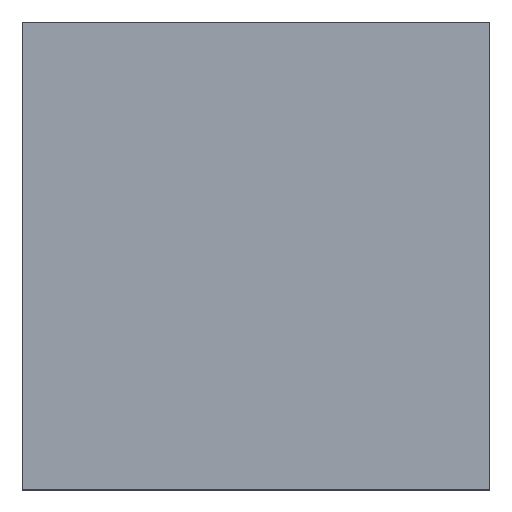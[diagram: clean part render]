
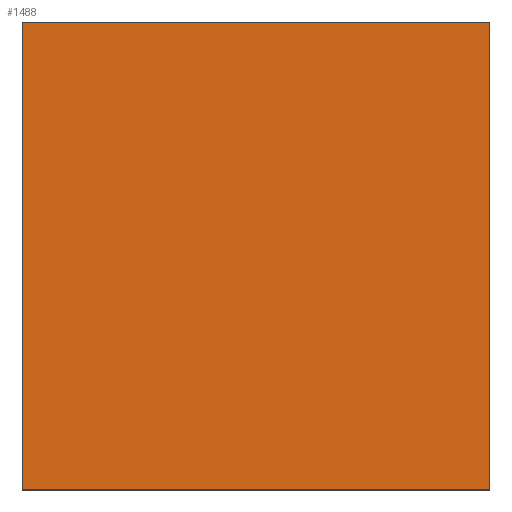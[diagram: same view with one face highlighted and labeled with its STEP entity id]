
A CAD part, top view. The second image highlights one B-rep face of the part: STEP entity #1488.
In plain terms, the highlighted planar face has unit normal (0, 0, 1).
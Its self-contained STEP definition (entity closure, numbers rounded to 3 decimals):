
#350 = VERTEX_POINT ( 'NONE', #9082 ) ;
#685 = ORIENTED_EDGE ( 'NONE', *, *, #975, .T. ) ;
#936 = LINE ( 'NONE', #3099, #4115 ) ;
#975 = EDGE_CURVE ( 'NONE', #3629, #5771, #3676, .T. ) ;
#1204 = EDGE_CURVE ( 'NONE', #350, #3629, #8372, .T. ) ;
#1317 = CARTESIAN_POINT ( 'NONE',  ( -10., -10., 1. ) ) ;
#1414 = CARTESIAN_POINT ( 'NONE',  ( -10., 10., 1. ) ) ;
#1488 = ADVANCED_FACE ( 'NONE', ( #5165 ), #8002, .T. ) ;
#1531 = VECTOR ( 'NONE', #2887, 1000. ) ;
#1620 = CARTESIAN_POINT ( 'NONE',  ( -10., 10., 1. ) ) ;
#1954 = CARTESIAN_POINT ( 'NONE',  ( 10., 10., 1. ) ) ;
#2170 = ORIENTED_EDGE ( 'NONE', *, *, #1204, .T. ) ;
#2887 = DIRECTION ( 'NONE',  ( -1., 0., 0. ) ) ;
#2889 = EDGE_CURVE ( 'NONE', #7858, #350, #936, .T. ) ;
#3099 = CARTESIAN_POINT ( 'NONE',  ( -10., 10., 1. ) ) ;
#3339 = EDGE_LOOP ( 'NONE', ( #685, #7180, #6855, #2170 ) ) ;
#3629 = VERTEX_POINT ( 'NONE', #4624 ) ;
#3676 = LINE ( 'NONE', #8564, #6163 ) ;
#3777 = VECTOR ( 'NONE', #6284, 1000. ) ;
#4115 = VECTOR ( 'NONE', #7354, 1000. ) ;
#4624 = CARTESIAN_POINT ( 'NONE',  ( 10., -10., 1. ) ) ;
#5027 = DIRECTION ( 'NONE',  ( 0., 0., 1. ) ) ;
#5165 = FACE_OUTER_BOUND ( 'NONE', #3339, .T. ) ;
#5768 = CARTESIAN_POINT ( 'NONE',  ( 0., 0., 1. ) ) ;
#5771 = VERTEX_POINT ( 'NONE', #1954 ) ;
#6163 = VECTOR ( 'NONE', #8010, 1000. ) ;
#6284 = DIRECTION ( 'NONE',  ( 1., 0., 0. ) ) ;
#6325 = AXIS2_PLACEMENT_3D ( 'NONE', #5768, #5027, #8596 ) ;
#6422 = LINE ( 'NONE', #1414, #1531 ) ;
#6855 = ORIENTED_EDGE ( 'NONE', *, *, #2889, .T. ) ;
#6950 = EDGE_CURVE ( 'NONE', #5771, #7858, #6422, .T. ) ;
#7180 = ORIENTED_EDGE ( 'NONE', *, *, #6950, .T. ) ;
#7354 = DIRECTION ( 'NONE',  ( 0., -1., 0. ) ) ;
#7858 = VERTEX_POINT ( 'NONE', #1620 ) ;
#8002 = PLANE ( 'NONE',  #6325 ) ;
#8010 = DIRECTION ( 'NONE',  ( 0., 1., 0. ) ) ;
#8372 = LINE ( 'NONE', #1317, #3777 ) ;
#8564 = CARTESIAN_POINT ( 'NONE',  ( 10., 10., 1. ) ) ;
#8596 = DIRECTION ( 'NONE',  ( 1., 0., 0. ) ) ;
#9082 = CARTESIAN_POINT ( 'NONE',  ( -10., -10., 1. ) ) ;
